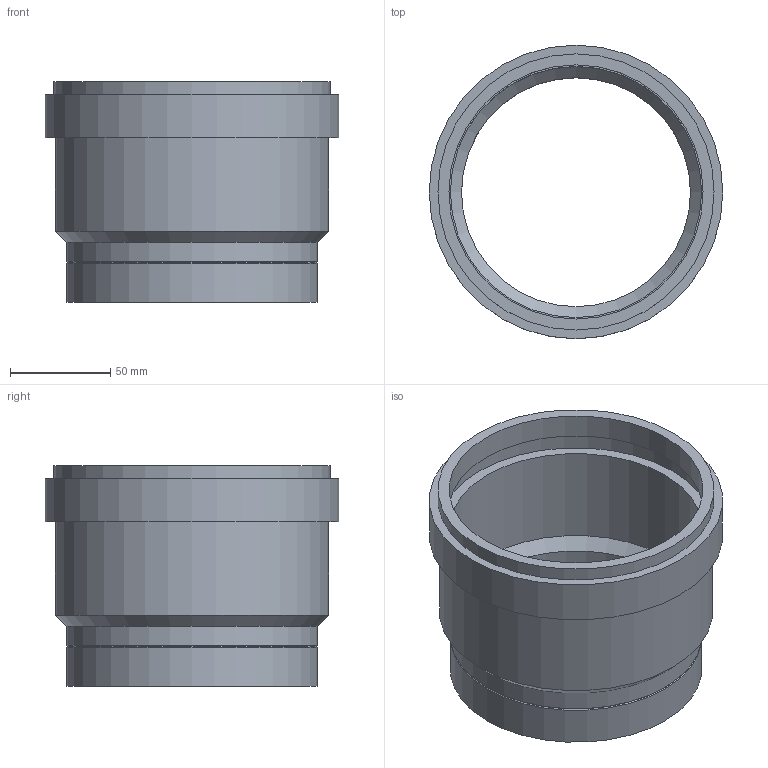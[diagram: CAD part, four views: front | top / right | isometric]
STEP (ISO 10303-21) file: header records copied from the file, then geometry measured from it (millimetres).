
FILE_DESCRIPTION(/* description */ (''),/* implementation_level */ '2;1');
FILE_NAME(/* name */ 'C:\Geberit-Teile\Export 2019\360.779.16.3\stp\368779.stp',/* time_stamp */ '2019-06-06T10:45:35+02:00',/* author */ ('JANAN'),/* organization */ (''),/* preprocessor_version */ 'ST-DEVELOPER v16.13',/* originating_system */ 'Autodesk Inventor 2018',/* authorisation */ '');
FILE_SCHEMA (('AUTOMOTIVE_DESIGN { 1 0 10303 214 3 1 1 }'));
Length unit declared in the file: millimetre
Products named in the file (1): StMuf mit LipDicht PE-HD d125 L11
Bounding box: 146.7 x 146.7 x 110.4 mm (x, y, z)
Volume: 273601.8 mm3; surface area: 104049.9 mm2
Topology: 1 solids, 1 shells, 19 faces, 34 edges, 21 vertices
Faces by surface type: cylinder 9, plane 6, cone 4
Full cylindrical faces by diameter (mm): 114.425 x1, 125.425 x2, 125.5 x1, 127 x1, 135.7 x1, 136.5 x1, 138 x1, 146.7 x1
Entity records: 446 total; most frequent: DIRECTION 78, CARTESIAN_POINT 58, AXIS2_PLACEMENT_3D 39, EDGE_LOOP 38, ORIENTED_EDGE 38, STYLED_ITEM 20, FACE_BOUND 19, FACE_OUTER_BOUND 19
